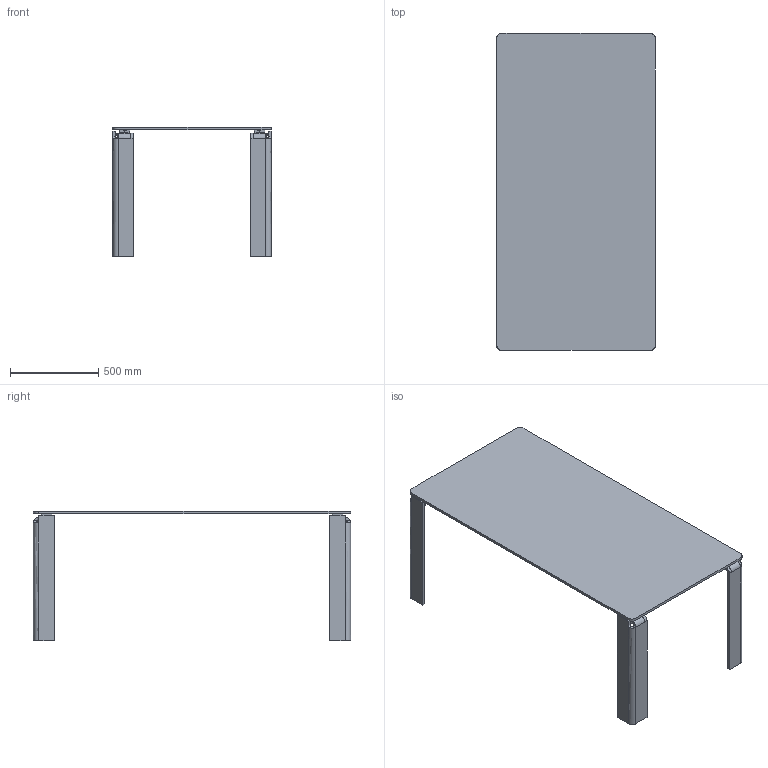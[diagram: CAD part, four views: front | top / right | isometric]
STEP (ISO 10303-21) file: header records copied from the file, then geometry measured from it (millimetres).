
FILE_DESCRIPTION(/* description */ (''),/* implementation_level */ '2;1');
FILE_NAME(/* name */ '4010 - Newton 180x90 Vetro',/* time_stamp */ '2012-06-18T11:15:25+02:00',/* author */ (''),/* organization */ (''),/* preprocessor_version */ 'ST-DEVELOPER v10',/* originating_system */ '',/* authorisation */ '');
FILE_SCHEMA (('CONFIG_CONTROL_DESIGN'));
Length unit declared in the file: millimetre
Products named in the file (1): 1
Bounding box: 900 x 1800 x 734 mm (x, y, z)
Volume: 34785742 mm3; surface area: 4916938.4 mm2
Topology: 17 solids, 17 shells, 224 faces, 514 edges, 316 vertices
Faces by surface type: bspline 126, plane 98
Entity records: 8446 total; most frequent: CARTESIAN_POINT 5068, ORIENTED_EDGE 1012, EDGE_CURVE 506, B_SPLINE_CURVE_WITH_KNOTS 366, VERTEX_POINT 316, EDGE_LOOP 248, ADVANCED_FACE 224, FACE_OUTER_BOUND 224
